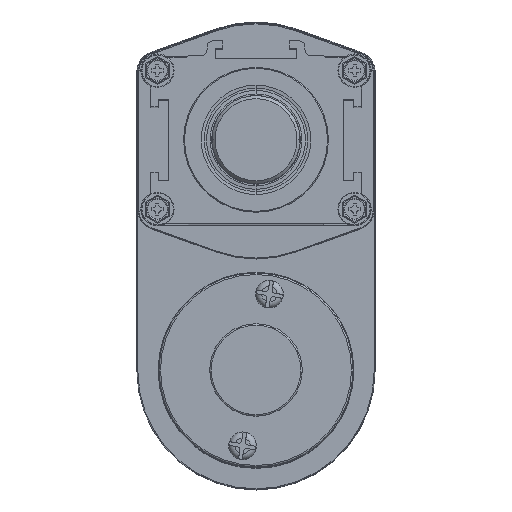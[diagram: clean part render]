
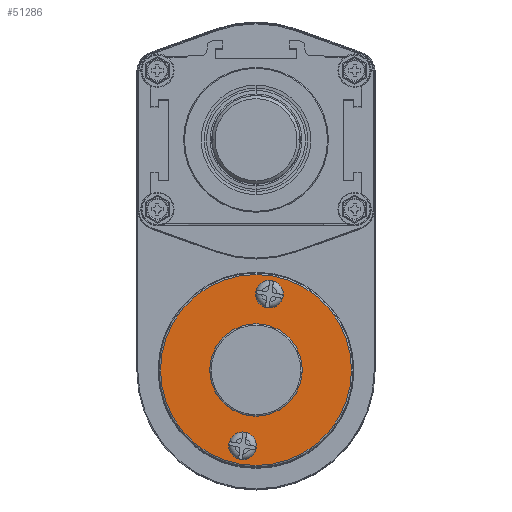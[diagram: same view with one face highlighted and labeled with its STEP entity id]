
A CAD part, top view. The second image highlights one B-rep face of the part: STEP entity #51286.
In plain terms, the highlighted planar face has unit normal (0, 0, 1).
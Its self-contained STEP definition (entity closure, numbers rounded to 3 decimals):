
#1470 = DIRECTION ( 'NONE',  ( -0.174, -0.985, 0. ) ) ;
#2000 = CARTESIAN_POINT ( 'NONE',  ( -23.132, -76.733, 284.9 ) ) ;
#9283 = EDGE_CURVE ( 'NONE', #65478, #30568, #62535, .T. ) ;
#9515 = CIRCLE ( 'NONE', #29317, 4.5 ) ;
#10912 = CIRCLE ( 'NONE', #83148, 15. ) ;
#11769 = AXIS2_PLACEMENT_3D ( 'NONE', #52672, #45137, #86813 ) ;
#13914 = EDGE_LOOP ( 'NONE', ( #51275, #52640 ) ) ;
#14674 = FACE_BOUND ( 'NONE', #33335, .T. ) ;
#15224 = DIRECTION ( 'NONE',  ( -0.174, -0.985, 0. ) ) ;
#15331 = CARTESIAN_POINT ( 'NONE',  ( -14.189, -26.016, 284.9 ) ) ;
#15540 = FACE_BOUND ( 'NONE', #26319, .T. ) ;
#15812 = EDGE_CURVE ( 'NONE', #30568, #65478, #9515, .T. ) ;
#15834 = AXIS2_PLACEMENT_3D ( 'NONE', #51193, #79110, #32089 ) ;
#16874 = VERTEX_POINT ( 'NONE', #51171 ) ;
#16954 = ORIENTED_EDGE ( 'NONE', *, *, #44605, .T. ) ;
#17986 = EDGE_CURVE ( 'NONE', #47189, #16874, #71855, .T. ) ;
#19421 = VERTEX_POINT ( 'NONE', #2000 ) ;
#21305 = DIRECTION ( 'NONE',  ( -0.174, -0.985, 0. ) ) ;
#21749 = FACE_OUTER_BOUND ( 'NONE', #44970, .T. ) ;
#22310 = CARTESIAN_POINT ( 'NONE',  ( -17.749, -46.204, 284.9 ) ) ;
#23416 = VERTEX_POINT ( 'NONE', #76784 ) ;
#23952 = CARTESIAN_POINT ( 'NONE',  ( -12.365, -15.675, 284.9 ) ) ;
#26134 = ORIENTED_EDGE ( 'NONE', *, *, #68638, .T. ) ;
#26319 = EDGE_LOOP ( 'NONE', ( #43046, #51907 ) ) ;
#27318 = CIRCLE ( 'NONE', #11769, 31. ) ;
#27905 = EDGE_CURVE ( 'NONE', #16874, #47189, #48891, .T. ) ;
#28272 = AXIS2_PLACEMENT_3D ( 'NONE', #47907, #69171, #21305 ) ;
#29317 = AXIS2_PLACEMENT_3D ( 'NONE', #80262, #81579, #87803 ) ;
#29405 = DIRECTION ( 'NONE',  ( 0., 0., 1. ) ) ;
#30258 = DIRECTION ( 'NONE',  ( 0., 0., 1. ) ) ;
#30506 = CIRCLE ( 'NONE', #40377, 31. ) ;
#30568 = VERTEX_POINT ( 'NONE', #70125 ) ;
#30782 = DIRECTION ( 'NONE',  ( 0., 0., 1. ) ) ;
#32089 = DIRECTION ( 'NONE',  ( -0.174, -0.985, 0. ) ) ;
#33335 = EDGE_LOOP ( 'NONE', ( #35556, #60264 ) ) ;
#33393 = EDGE_CURVE ( 'NONE', #23416, #70431, #10912, .T. ) ;
#34148 = CIRCLE ( 'NONE', #15834, 15. ) ;
#35556 = ORIENTED_EDGE ( 'NONE', *, *, #33393, .F. ) ;
#40377 = AXIS2_PLACEMENT_3D ( 'NONE', #69782, #29405, #56912 ) ;
#41262 = PLANE ( 'NONE',  #28272 ) ;
#43046 = ORIENTED_EDGE ( 'NONE', *, *, #15812, .F. ) ;
#44036 = VERTEX_POINT ( 'NONE', #23952 ) ;
#44605 = EDGE_CURVE ( 'NONE', #44036, #19421, #30506, .T. ) ;
#44970 = EDGE_LOOP ( 'NONE', ( #26134, #16954 ) ) ;
#45137 = DIRECTION ( 'NONE',  ( 0., 0., 1. ) ) ;
#47189 = VERTEX_POINT ( 'NONE', #74988 ) ;
#47907 = CARTESIAN_POINT ( 'NONE',  ( -2.976, -48.809, 284.9 ) ) ;
#48891 = CIRCLE ( 'NONE', #60226, 4.5 ) ;
#51171 = CARTESIAN_POINT ( 'NONE',  ( -21.308, -66.393, 284.9 ) ) ;
#51193 = CARTESIAN_POINT ( 'NONE',  ( -17.749, -46.204, 284.9 ) ) ;
#51275 = ORIENTED_EDGE ( 'NONE', *, *, #27905, .F. ) ;
#51286 = ADVANCED_FACE ( 'NONE', ( #55442, #15540, #21749, #14674 ), #41262, .T. ) ;
#51907 = ORIENTED_EDGE ( 'NONE', *, *, #9283, .F. ) ;
#52062 = DIRECTION ( 'NONE',  ( 0., 0., 1. ) ) ;
#52479 = CARTESIAN_POINT ( 'NONE',  ( -15.144, -31.432, 284.9 ) ) ;
#52640 = ORIENTED_EDGE ( 'NONE', *, *, #17986, .F. ) ;
#52672 = CARTESIAN_POINT ( 'NONE',  ( -17.749, -46.204, 284.9 ) ) ;
#55442 = FACE_BOUND ( 'NONE', #13914, .T. ) ;
#56295 = AXIS2_PLACEMENT_3D ( 'NONE', #58273, #30782, #84457 ) ;
#56912 = DIRECTION ( 'NONE',  ( -0.174, -0.985, 0. ) ) ;
#56967 = CARTESIAN_POINT ( 'NONE',  ( -22.09, -70.824, 284.9 ) ) ;
#58273 = CARTESIAN_POINT ( 'NONE',  ( -22.09, -70.824, 284.9 ) ) ;
#60226 = AXIS2_PLACEMENT_3D ( 'NONE', #56967, #52062, #79099 ) ;
#60264 = ORIENTED_EDGE ( 'NONE', *, *, #64498, .F. ) ;
#62535 = CIRCLE ( 'NONE', #65389, 4.5 ) ;
#64498 = EDGE_CURVE ( 'NONE', #70431, #23416, #34148, .T. ) ;
#65389 = AXIS2_PLACEMENT_3D ( 'NONE', #77703, #75956, #1470 ) ;
#65478 = VERTEX_POINT ( 'NONE', #15331 ) ;
#68638 = EDGE_CURVE ( 'NONE', #19421, #44036, #27318, .T. ) ;
#69171 = DIRECTION ( 'NONE',  ( 0., 0., 1. ) ) ;
#69782 = CARTESIAN_POINT ( 'NONE',  ( -17.749, -46.204, 284.9 ) ) ;
#70125 = CARTESIAN_POINT ( 'NONE',  ( -12.626, -17.152, 284.9 ) ) ;
#70431 = VERTEX_POINT ( 'NONE', #52479 ) ;
#71855 = CIRCLE ( 'NONE', #56295, 4.5 ) ;
#74988 = CARTESIAN_POINT ( 'NONE',  ( -22.871, -75.256, 284.9 ) ) ;
#75956 = DIRECTION ( 'NONE',  ( 0., 0., 1. ) ) ;
#76784 = CARTESIAN_POINT ( 'NONE',  ( -20.353, -60.976, 284.9 ) ) ;
#77703 = CARTESIAN_POINT ( 'NONE',  ( -13.407, -21.584, 284.9 ) ) ;
#79099 = DIRECTION ( 'NONE',  ( -0.174, -0.985, 0. ) ) ;
#79110 = DIRECTION ( 'NONE',  ( 0., 0., 1. ) ) ;
#80262 = CARTESIAN_POINT ( 'NONE',  ( -13.407, -21.584, 284.9 ) ) ;
#81579 = DIRECTION ( 'NONE',  ( 0., 0., 1. ) ) ;
#83148 = AXIS2_PLACEMENT_3D ( 'NONE', #22310, #30258, #15224 ) ;
#84457 = DIRECTION ( 'NONE',  ( -0.174, -0.985, 0. ) ) ;
#86813 = DIRECTION ( 'NONE',  ( -0.174, -0.985, 0. ) ) ;
#87803 = DIRECTION ( 'NONE',  ( -0.174, -0.985, 0. ) ) ;
